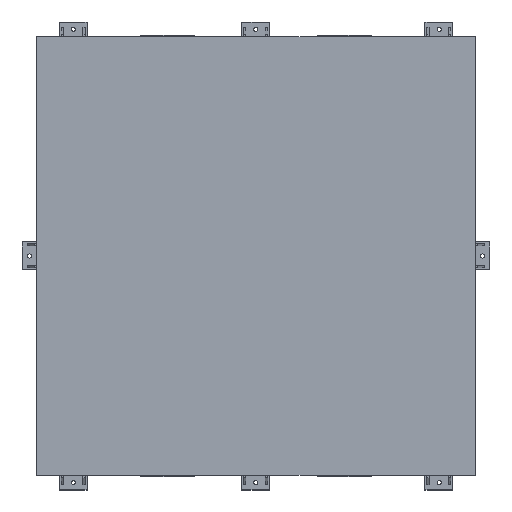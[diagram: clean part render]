
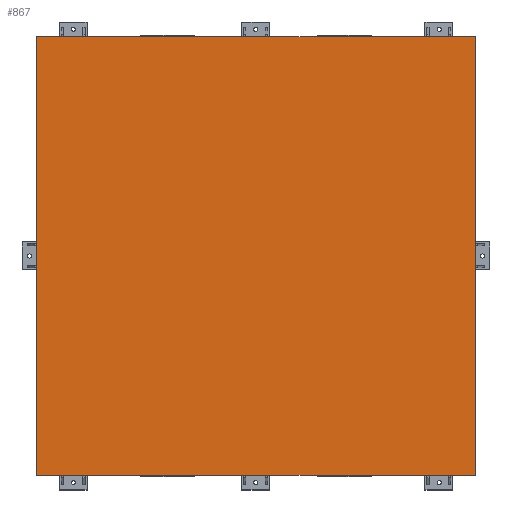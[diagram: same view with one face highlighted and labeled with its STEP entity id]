
A CAD part, top view. The second image highlights one B-rep face of the part: STEP entity #867.
In plain terms, the highlighted planar face has unit normal (0, 0, 1).
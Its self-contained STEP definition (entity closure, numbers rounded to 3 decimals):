
#867=ADVANCED_FACE('',(#1571),#1185,.T.);
#1185=PLANE('',#9132);
#1571=FACE_OUTER_BOUND('',#2045,.T.);
#2045=EDGE_LOOP('',(#4467,#4468,#4469,#4470));
#4467=ORIENTED_EDGE('',*,*,#6471,.F.);
#4468=ORIENTED_EDGE('',*,*,#6472,.F.);
#4469=ORIENTED_EDGE('',*,*,#6473,.F.);
#4470=ORIENTED_EDGE('',*,*,#6474,.F.);
#5255=VERTEX_POINT('',#13802);
#5256=VERTEX_POINT('',#13803);
#5257=VERTEX_POINT('',#13805);
#5258=VERTEX_POINT('',#13807);
#6471=EDGE_CURVE('',#5255,#5256,#7483,.T.);
#6472=EDGE_CURVE('',#5257,#5255,#7484,.T.);
#6473=EDGE_CURVE('',#5258,#5257,#7485,.T.);
#6474=EDGE_CURVE('',#5256,#5258,#7486,.T.);
#7483=LINE('',#13801,#8495);
#7484=LINE('',#13804,#8496);
#7485=LINE('',#13806,#8497);
#7486=LINE('',#13808,#8498);
#8495=VECTOR('',#11388,1.);
#8496=VECTOR('',#11389,1.);
#8497=VECTOR('',#11390,1.);
#8498=VECTOR('',#11391,1.);
#9132=AXIS2_PLACEMENT_3D('',#13809,#11392,#11393);
#11388=DIRECTION('',(-1.,0.,0.));
#11389=DIRECTION('',(0.,-1.,0.));
#11390=DIRECTION('',(1.,0.,0.));
#11391=DIRECTION('',(0.,1.,0.));
#11392=DIRECTION('',(0.,0.,1.));
#11393=DIRECTION('',(1.,0.,0.));
#13801=CARTESIAN_POINT('',(-1200.,0.,0.));
#13802=CARTESIAN_POINT('',(0.,0.,0.));
#13803=CARTESIAN_POINT('',(-2400.,0.,0.));
#13804=CARTESIAN_POINT('',(0.,1200.,0.));
#13805=CARTESIAN_POINT('',(0.,2400.,0.));
#13806=CARTESIAN_POINT('',(-1200.,2400.,0.));
#13807=CARTESIAN_POINT('',(-2400.,2400.,0.));
#13808=CARTESIAN_POINT('',(-2400.,1200.,0.));
#13809=CARTESIAN_POINT('',(-1200.,1200.,0.));
